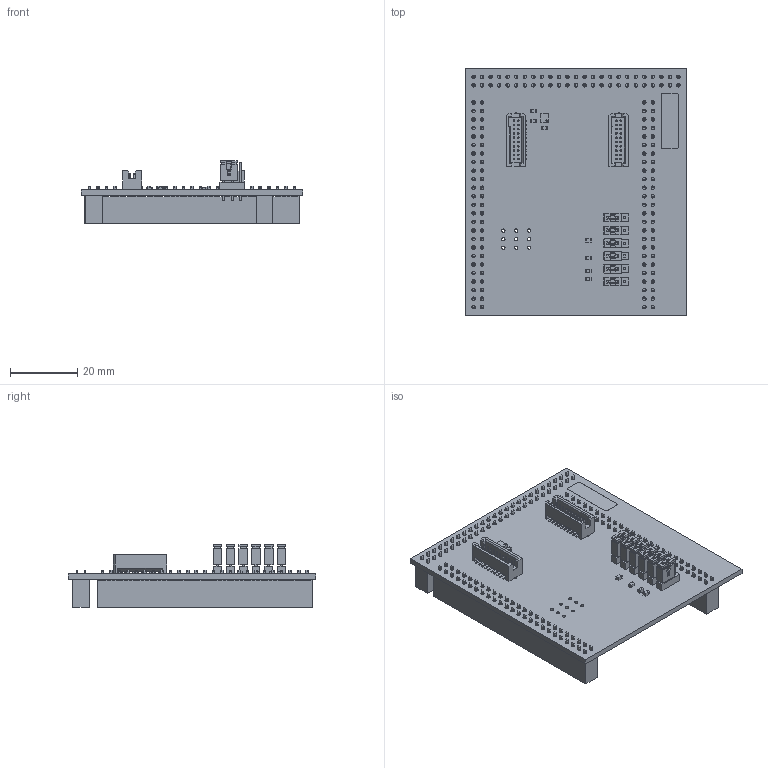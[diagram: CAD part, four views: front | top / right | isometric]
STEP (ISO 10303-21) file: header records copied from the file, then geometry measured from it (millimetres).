
FILE_DESCRIPTION(('Open CASCADE Model'),'2;1');
FILE_NAME('Open CASCADE Shape Model','2015-06-23T08:40:03',('Author'),( 'Open CASCADE'),'Open CASCADE STEP processor 6.5','Open CASCADE 6.5' ,'Unknown');
FILE_SCHEMA(('AUTOMOTIVE_DESIGN { 1 0 10303 214 1 1 1 1 }'));
Length unit declared in the file: millimetre
Products named in the file (47): PCB; Board; SH-J6; SNT-100-XX-X; c-37-x; snt-100-xx; SH-J5; SH-J4; SH-J3; SH-J2; SH-J1; J5; 757647760; Extruded; 757647376; J3; J2; J6; J4; Y1; 757646736; 757646480; R91; 757647632; 757647504; R81; R71; R61; R2; R1; JE3; SSW-125-01-X-D; LBL1; 757646992; C1; JD1; JD2; J1; JR2; Samtec_TFM-110-02-X-D-A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
Assembly tree (95 placements, depth 4):
  PCB
    Board
    SH-J6
      SNT-100-XX-X
        c-37-x
        snt-100-xx
    SH-J5
      SNT-100-XX-X
        c-37-x
        snt-100-xx
    SH-J4
      SNT-100-XX-X
        c-37-x
        snt-100-xx
    SH-J3
      SNT-100-XX-X
        c-37-x
        snt-100-xx
    SH-J2
      SNT-100-XX-X
        c-37-x
        snt-100-xx
    SH-J1
      SNT-100-XX-X
        c-37-x
        snt-100-xx
    J5
      757647760
        Extruded
      757647376  x3
        Extruded
    J3
      757647760
        Extruded
      757647376  x3
        Extruded
    J2
      757647760
        Extruded
      757647376  x3
        Extruded
    J6
      757647760
        Extruded
      757647376  x3
        Extruded
    J4
      757647760
        Extruded
      757647376  x3
        Extruded
    Y1
      757646736
        Extruded
      757646480
        Extruded
    R91
      757647632  x2
        Extruded
      757647504
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Bounding box: 66.04 x 73.66 x 18.74 mm (x, y, z)
Volume: 15673.4 mm3; surface area: 25268 mm2
Topology: 66 solids, 66 shells, 6247 faces, 15781 edges, 10044 vertices
Faces by surface type: plane 5766, cylinder 437, cone 40, sphere 4
Full cylindrical faces by diameter (mm): 0.457 x40, 1 x27, 1.04 x150, 1.27 x4, 1.45 x4
Entity records: 134797 total; most frequent: CARTESIAN_POINT 25379, DIRECTION 19730, LINE 14218, VECTOR 14218, ORIENTED_EDGE 10460, PCURVE 10460, DEFINITIONAL_REPRESENTATION 10460, EDGE_CURVE 5230
